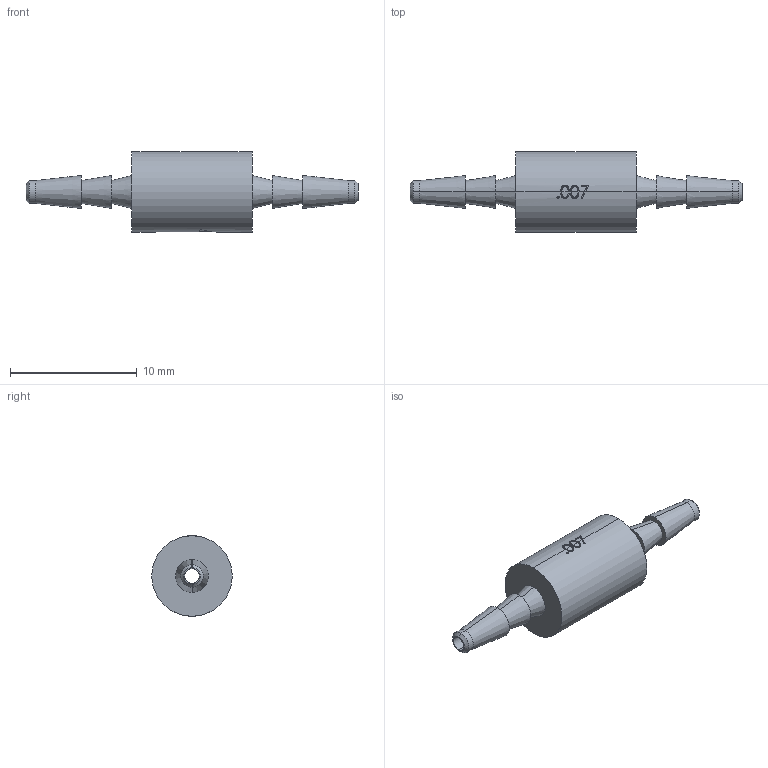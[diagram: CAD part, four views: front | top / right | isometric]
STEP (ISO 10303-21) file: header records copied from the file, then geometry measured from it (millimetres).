
FILE_DESCRIPTION(/* description */ ('SolidWorks IGES file using analytic representation for surfaces '),/* implementation_level */ '2;1');
FILE_NAME(/* name */ 'K:\Normteile INVENTOR\Air-Logic\Orifice restrictors\F-2815-071-B80.IGS.ipt.stp',/* time_stamp */ '2020-05-27T10:45:58+02:00',/* author */ ('cad'),/* organization */ (''),/* preprocessor_version */ 'ST-DEVELOPER v18',/* originating_system */ 'Autodesk Inventor 2020',/* authorisation */ '');
FILE_SCHEMA (('AUTOMOTIVE_DESIGN { 1 0 10303 214 3 1 1 }'));
Length unit declared in the file: millimetre
Products named in the file (1): F-2815-071-B80.IGS
Bounding box: 26.21 x 6.35 x 6.35 mm (x, y, z)
Surface area: 467.1 mm2 (no closed solid volume)
Topology: 0 solids, 79 shells, 79 faces, 385 edges, 385 vertices
Faces by surface type: bspline 27, cylinder 20, cone 16, plane 16
Entity records: 7224 total; most frequent: CARTESIAN_POINT 4366, DIRECTION 460, VERTEX_POINT 385, EDGE_CURVE 385, ORIENTED_EDGE 385, LINE 188, VECTOR 188, AXIS2_PLACEMENT_3D 136
